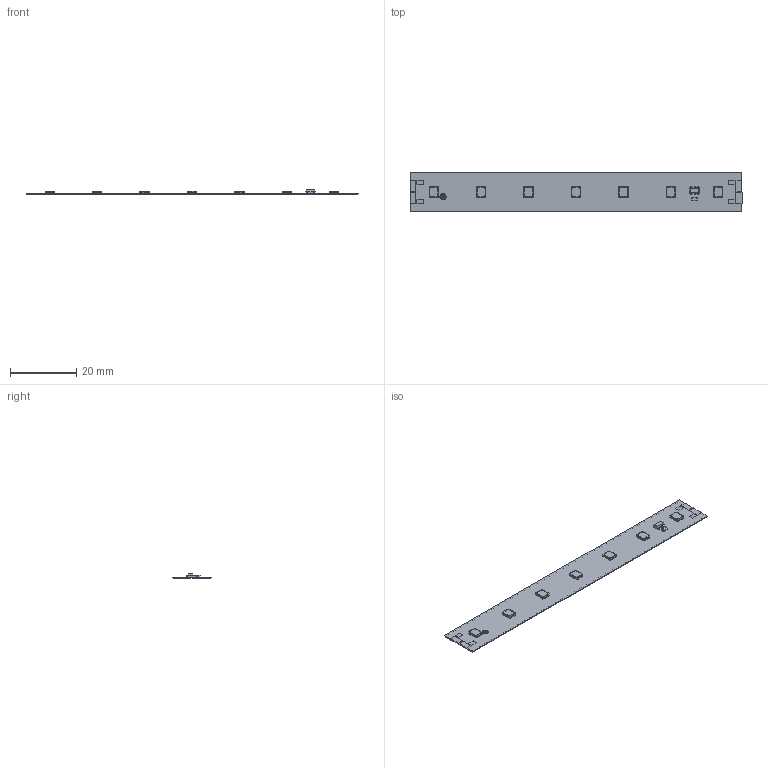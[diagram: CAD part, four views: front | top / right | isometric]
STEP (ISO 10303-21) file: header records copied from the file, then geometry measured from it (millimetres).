
FILE_DESCRIPTION((''),'2;1');
FILE_NAME('16208852_LLE-FLEX-ADV3-12X100','2020-04-16T10:38:54',('bernhard.fink'),(''),'CREO PARAMETRIC BY PTC INC, 2019164','CREO PARAMETRIC BY PTC INC, 2019164','');
FILE_SCHEMA(('CONFIG_CONTROL_DESIGN'));
Length unit declared in the file: millimetre
Products named in the file (1): 16208852_LLE-FLEX-ADV3-12X100
Bounding box: 100 x 12 x 1.48 mm (x, y, z)
Volume: 481.6 mm3; surface area: 2556 mm2
Topology: 1 solids, 1 shells, 456 faces, 1256 edges, 802 vertices
Faces by surface type: plane 354, cylinder 86, sphere 16
Entity records: 14819 total; most frequent: CARTESIAN_POINT 3259, ORIENTED_EDGE 2480, DIRECTION 2228, EDGE_CURVE 1240, VECTOR 1052, LINE 1052, VERTEX_POINT 802, AXIS2_PLACEMENT_3D 588
